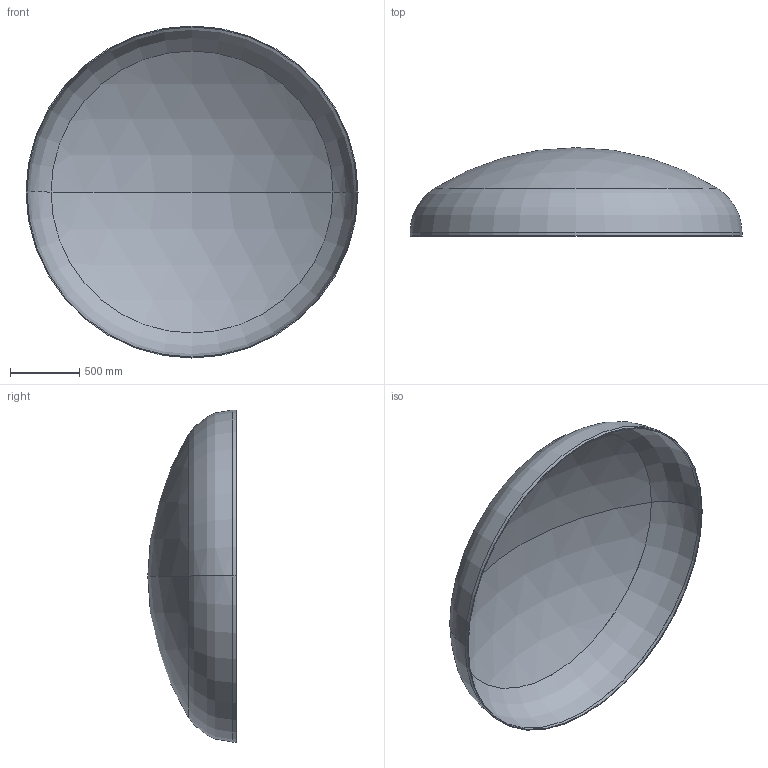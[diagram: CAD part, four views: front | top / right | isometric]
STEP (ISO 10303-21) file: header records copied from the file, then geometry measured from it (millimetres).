
FILE_DESCRIPTION (( 'STEP AP203' ), '1' );
FILE_NAME ('DIN 28013 Korbbogenform_-_Boden DIN 28013 - 2400 x 25 - I - s=7.step', '2016-07-01T15:02:42', ( '' ), ( '' ), 'SwSTEP 2.0', 'SolidWorks 2013', '' );
FILE_SCHEMA (( 'CONFIG_CONTROL_DESIGN' ));
Length unit declared in the file: millimetre
Products named in the file (1): DIN 28013 Korbbogenform_-_Boden DIN 28013 - 2400 x 25 - I - s=7
Bounding box: 2400 x 638.54 x 2400 mm (x, y, z)
Volume: 45017838.4 mm3; surface area: 12914961.8 mm2
Topology: 1 solids, 1 shells, 13 faces, 24 edges, 14 vertices
Faces by surface type: torus 4, cylinder 4, sphere 4, plane 1
Entity records: 407 total; most frequent: DIRECTION 72, CARTESIAN_POINT 52, ORIENTED_EDGE 48, AXIS2_PLACEMENT_3D 34, EDGE_CURVE 24, CIRCLE 20, VERTEX_POINT 14, EDGE_LOOP 14
